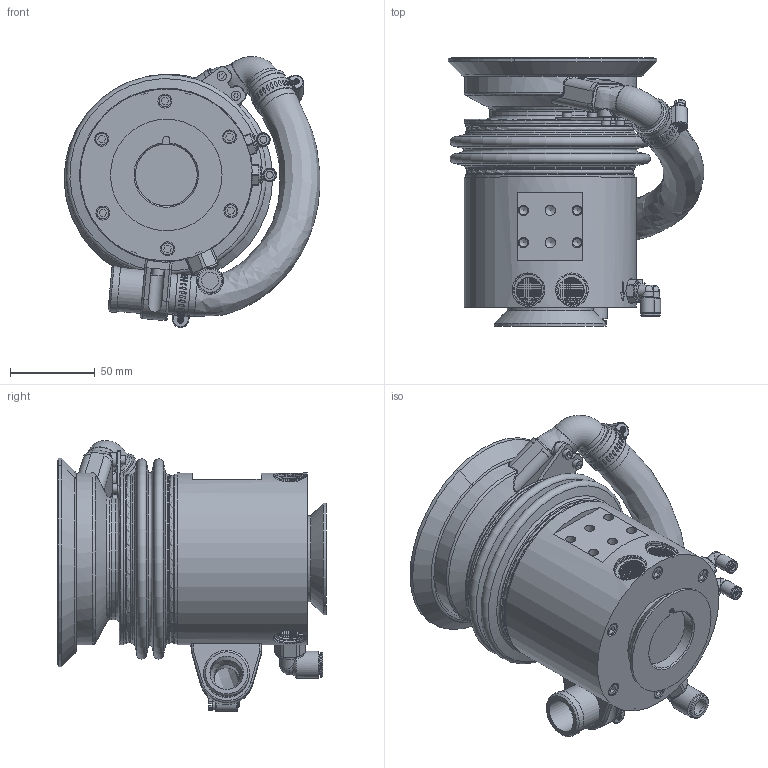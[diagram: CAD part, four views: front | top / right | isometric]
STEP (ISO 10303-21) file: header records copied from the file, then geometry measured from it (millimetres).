
FILE_DESCRIPTION (( 'STEP AP214' ), '1' );
FILE_NAME ('ATI-9150-AOV-10B-5-1-0.STEP', '2020-07-16T13:59:15', ( '' ), ( '' ), 'SwSTEP 2.0', 'SolidWorks 2018', '' );
FILE_SCHEMA (( 'AUTOMOTIVE_DESIGN' ));
Products named in the file (3): ATI-3710-50-1493; ATI-9150-AOV-10B-5-1-0; ATI-9150-AOV-10B-0-1-0
Assembly tree (2 placements, depth 2):
  ATI-9150-AOV-10B-5-1-0
    ATI-9150-AOV-10B-0-1-0
    ATI-3710-50-1493
Bounding box: 151.01 x 158.41 x 160.1 mm (x, y, z)
Volume: 1160302.1 mm3; surface area: 193224.2 mm2
Topology: 18 solids, 51 shells, 4500 faces, 11792 edges, 7726 vertices
Faces by surface type: plane 3286, cylinder 865, bspline 178, cone 108, torus 52, sphere 11
Full cylindrical faces by diameter (mm): 2 x6, 2.778 x2, 3 x4, 3.175 x2, 3.3 x3, 4 x5, 4.046 x1, 4.1 x2, 4.408 x1, 4.5 x3, 4.8 x2, 4.826 x2, 5 x4, 5.5 x10, 6 x4, 6.048 x2, 6.35 x2, 6.477 x1, 6.604 x6, 7 x10, 7.7 x2, 7.937 x2, 8.014 x1, 8.128 x1, 8.2 x2, 8.25 x6, 8.89 x2, 10 x2, 10.1 x1, 10.95 x1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
Entity records: 172982 total; most frequent: CARTESIAN_POINT 64116, ORIENTED_EDGE 22752, DIRECTION 21237, EDGE_CURVE 11376, LINE 8247, VECTOR 8247, VERTEX_POINT 7583, AXIS2_PLACEMENT_3D 6495
